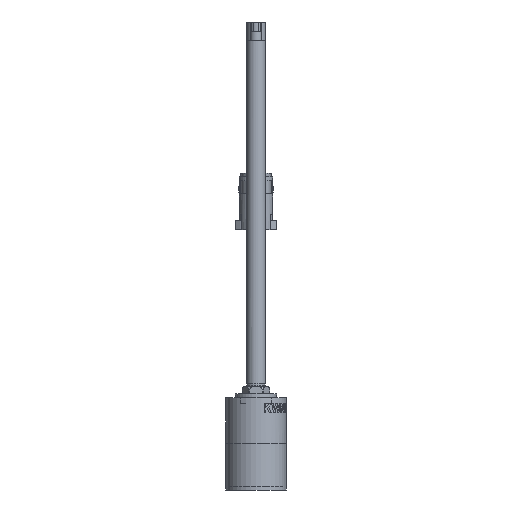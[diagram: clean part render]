
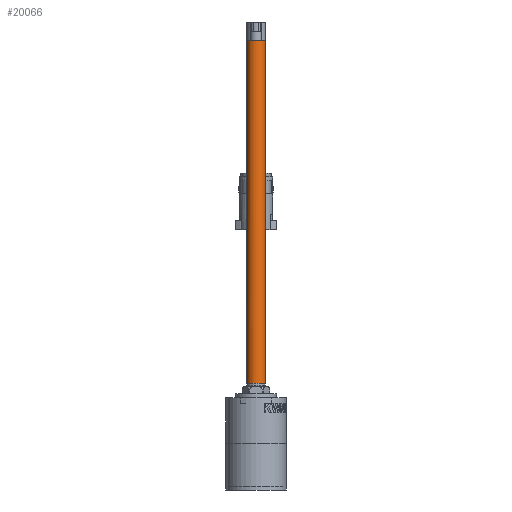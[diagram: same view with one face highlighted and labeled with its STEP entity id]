
A CAD part, left-side view. The second image highlights one B-rep face of the part: STEP entity #20066.
In plain terms, the highlighted cylindrical face has radius 5 mm (diameter 10 mm), a full revolution.
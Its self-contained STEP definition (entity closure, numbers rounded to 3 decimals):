
#11023=CYLINDRICAL_SURFACE('',#57233,5.);
#15360=CIRCLE('',#57232,5.);
#20066=ADVANCED_FACE('',(#23447,#23448),#11023,.T.);
#23447=FACE_BOUND('',#25428,.T.);
#23448=FACE_BOUND('',#25429,.T.);
#25428=EDGE_LOOP('',(#29758));
#25429=EDGE_LOOP('',(#29759));
#29758=ORIENTED_EDGE('',*,*,#46308,.T.);
#29759=ORIENTED_EDGE('',*,*,#46309,.T.);
#41866=VERTEX_POINT('',#77476);
#41867=VERTEX_POINT('',#77478);
#46308=EDGE_CURVE('',#41866,#41866,#52414,.T.);
#46309=EDGE_CURVE('',#41867,#41867,#15360,.T.);
#52414=B_SPLINE_CURVE_WITH_KNOTS('',3,(#77458,#77459,#77460,#77461,#77462,
#77463,#77464,#77465,#77466,#77467,#77468,#77469,#77470,#77471,#77472,#77473,
#77474,#77475),.UNSPECIFIED.,.T.,.F.,(2,2,2,2,2,2,2,2,2,2,2),(-0.125,0.,
0.125,0.25,0.375,0.5,0.625,0.75,0.875,1.,1.125),.UNSPECIFIED.);
#57232=AXIS2_PLACEMENT_3D('',#77477,#61226,#61227);
#57233=AXIS2_PLACEMENT_3D('',#77479,#61228,#61229);
#61226=DIRECTION('',(0.,0.,-1.));
#61227=DIRECTION('',(-1.,0.,0.));
#61228=DIRECTION('',(0.,0.,-1.));
#61229=DIRECTION('',(-1.,0.,0.));
#77458=CARTESIAN_POINT('',(-320.,1.31,56.7));
#77459=CARTESIAN_POINT('',(-320.,-1.308,56.7));
#77460=CARTESIAN_POINT('',(-319.461,-2.609,56.7));
#77461=CARTESIAN_POINT('',(-317.61,-4.461,56.7));
#77462=CARTESIAN_POINT('',(-316.31,-5.,56.7));
#77463=CARTESIAN_POINT('',(-313.692,-5.,56.7));
#77464=CARTESIAN_POINT('',(-312.391,-4.461,56.7));
#77465=CARTESIAN_POINT('',(-310.539,-2.61,56.7));
#77466=CARTESIAN_POINT('',(-310.,-1.31,56.7));
#77467=CARTESIAN_POINT('',(-310.,1.308,56.7));
#77468=CARTESIAN_POINT('',(-310.539,2.609,56.7));
#77469=CARTESIAN_POINT('',(-312.39,4.461,56.7));
#77470=CARTESIAN_POINT('',(-313.69,5.,56.7));
#77471=CARTESIAN_POINT('',(-316.308,5.,56.7));
#77472=CARTESIAN_POINT('',(-317.609,4.461,56.7));
#77473=CARTESIAN_POINT('',(-319.461,2.61,56.7));
#77474=CARTESIAN_POINT('',(-320.,1.31,56.7));
#77475=CARTESIAN_POINT('',(-320.,-1.308,56.7));
#77476=CARTESIAN_POINT('',(-320.,0.001,56.7));
#77477=CARTESIAN_POINT('',(-315.,0.,239.1));
#77478=CARTESIAN_POINT('',(-320.,0.,239.1));
#77479=CARTESIAN_POINT('',(-315.,0.,49.1));
